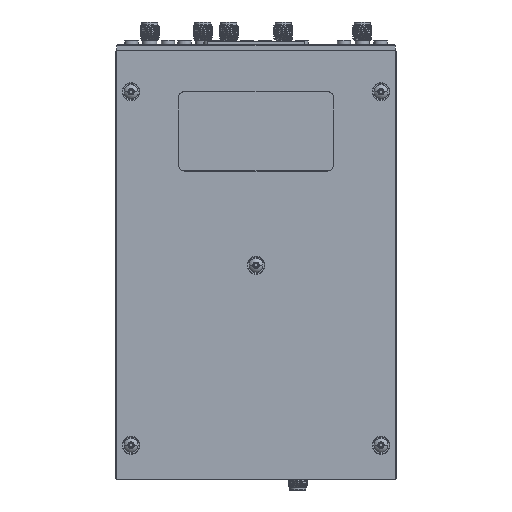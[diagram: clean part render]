
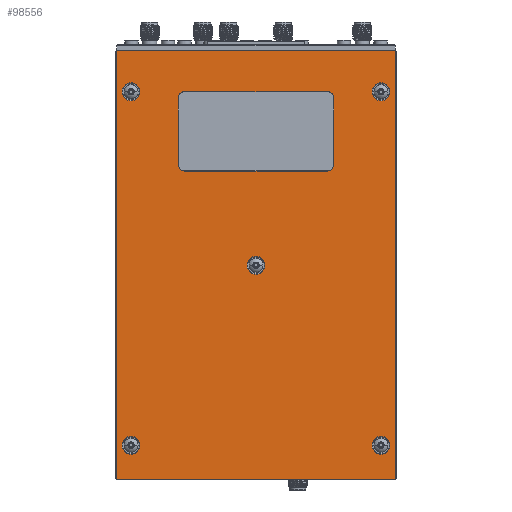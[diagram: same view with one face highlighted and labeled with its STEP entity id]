
A CAD part, front view. The second image highlights one B-rep face of the part: STEP entity #98556.
In plain terms, the highlighted planar face has unit normal (0, -1, 0).
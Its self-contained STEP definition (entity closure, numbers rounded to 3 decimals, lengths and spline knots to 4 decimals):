
#97813=CARTESIAN_POINT('',(1.6435,-0.146,2.2825));
#97814=DIRECTION('',(0.,1.,0.));
#97815=DIRECTION('',(0.,0.,1.));
#97816=AXIS2_PLACEMENT_3D('',#97813,#97814,#97815);
#97818=CARTESIAN_POINT('',(1.6435,-0.146,2.2825));
#97819=DIRECTION('',(0.,1.,0.));
#97820=DIRECTION('',(0.,0.,-1.));
#97821=AXIS2_PLACEMENT_3D('',#97818,#97819,#97820);
#97823=CARTESIAN_POINT('',(1.6435,-0.146,-2.3675));
#97824=DIRECTION('',(0.,1.,0.));
#97825=DIRECTION('',(0.,0.,1.));
#97826=AXIS2_PLACEMENT_3D('',#97823,#97824,#97825);
#97828=CARTESIAN_POINT('',(1.6435,-0.146,-2.3675));
#97829=DIRECTION('',(0.,1.,0.));
#97830=DIRECTION('',(0.,0.,-1.));
#97831=AXIS2_PLACEMENT_3D('',#97828,#97829,#97830);
#97833=CARTESIAN_POINT('',(-1.6435,-0.146,-2.3675));
#97834=DIRECTION('',(0.,1.,0.));
#97835=DIRECTION('',(0.,0.,1.));
#97836=AXIS2_PLACEMENT_3D('',#97833,#97834,#97835);
#97838=CARTESIAN_POINT('',(-1.6435,-0.146,-2.3675));
#97839=DIRECTION('',(0.,1.,0.));
#97840=DIRECTION('',(0.,0.,-1.));
#97841=AXIS2_PLACEMENT_3D('',#97838,#97839,#97840);
#97843=CARTESIAN_POINT('',(-1.6435,-0.146,2.2825));
#97844=DIRECTION('',(0.,1.,0.));
#97845=DIRECTION('',(0.,0.,1.));
#97846=AXIS2_PLACEMENT_3D('',#97843,#97844,#97845);
#97848=CARTESIAN_POINT('',(-1.6435,-0.146,2.2825));
#97849=DIRECTION('',(0.,1.,0.));
#97850=DIRECTION('',(0.,0.,-1.));
#97851=AXIS2_PLACEMENT_3D('',#97848,#97849,#97850);
#97853=CARTESIAN_POINT('',(-1.8235,-0.146,-2.8025));
#97854=DIRECTION('',(0.,1.,0.));
#97855=DIRECTION('',(0.,0.,-1.));
#97856=AXIS2_PLACEMENT_3D('',#97853,#97854,#97855);
#97858=DIRECTION('',(0.,0.,1.));
#97859=VECTOR('',#97858,5.605);
#97860=CARTESIAN_POINT('',(-1.8405,-0.146,-2.8025));
#97861=LINE('',#97860,#97859);
#97862=CARTESIAN_POINT('',(-1.8235,-0.146,2.8025));
#97863=DIRECTION('',(0.,1.,0.));
#97864=DIRECTION('',(-1.,0.,0.));
#97865=AXIS2_PLACEMENT_3D('',#97862,#97863,#97864);
#97867=DIRECTION('',(1.,0.,0.));
#97868=VECTOR('',#97867,3.647);
#97869=CARTESIAN_POINT('',(-1.8235,-0.146,2.8195));
#97870=LINE('',#97869,#97868);
#97871=CARTESIAN_POINT('',(1.8235,-0.146,2.8025));
#97872=DIRECTION('',(0.,1.,0.));
#97873=DIRECTION('',(0.,0.,1.));
#97874=AXIS2_PLACEMENT_3D('',#97871,#97872,#97873);
#97876=DIRECTION('',(0.,0.,-1.));
#97877=VECTOR('',#97876,5.605);
#97878=CARTESIAN_POINT('',(1.8405,-0.146,2.8025));
#97879=LINE('',#97878,#97877);
#97880=CARTESIAN_POINT('',(1.8235,-0.146,-2.8025));
#97881=DIRECTION('',(0.,1.,0.));
#97882=DIRECTION('',(1.,0.,0.));
#97883=AXIS2_PLACEMENT_3D('',#97880,#97881,#97882);
#97885=DIRECTION('',(-1.,0.,0.));
#97886=VECTOR('',#97885,3.647);
#97887=CARTESIAN_POINT('',(1.8235,-0.146,-2.8195));
#97888=LINE('',#97887,#97886);
#97889=CARTESIAN_POINT('',(0.94,-0.146,2.2025));
#97890=DIRECTION('',(0.,1.,0.));
#97891=DIRECTION('',(0.,0.,1.));
#97892=AXIS2_PLACEMENT_3D('',#97889,#97890,#97891);
#97894=DIRECTION('',(-1.,0.,0.));
#97895=VECTOR('',#97894,1.88);
#97896=CARTESIAN_POINT('',(0.94,-0.146,
2.2855));
#97897=LINE('',#97896,#97895);
#97898=CARTESIAN_POINT('',(-0.94,-0.146,2.2025));
#97899=DIRECTION('',(0.,1.,0.));
#97900=DIRECTION('',(-1.,0.,0.));
#97901=AXIS2_PLACEMENT_3D('',#97898,#97899,#97900);
#97903=DIRECTION('',(0.,0.,-1.));
#97904=VECTOR('',#97903,0.88);
#97905=CARTESIAN_POINT('',(-1.023,-0.146,
2.2025));
#97906=LINE('',#97905,#97904);
#97907=CARTESIAN_POINT('',(-0.94,-0.146,1.3225));
#97908=DIRECTION('',(0.,1.,0.));
#97909=DIRECTION('',(0.,0.,-1.));
#97910=AXIS2_PLACEMENT_3D('',#97907,#97908,#97909);
#97912=DIRECTION('',(-1.,0.,0.));
#97913=VECTOR('',#97912,1.88);
#97914=CARTESIAN_POINT('',(0.94,-0.146,
1.2395));
#97915=LINE('',#97914,#97913);
#97916=CARTESIAN_POINT('',(0.94,-0.146,1.3225));
#97917=DIRECTION('',(0.,1.,0.));
#97918=DIRECTION('',(1.,0.,0.));
#97919=AXIS2_PLACEMENT_3D('',#97916,#97917,#97918);
#97921=DIRECTION('',(0.,0.,1.));
#97922=VECTOR('',#97921,0.88);
#97923=CARTESIAN_POINT('',(1.023,-0.146,
1.3225));
#97924=LINE('',#97923,#97922);
#97925=CARTESIAN_POINT('',(0.,-0.146,0.));
#97926=DIRECTION('',(0.,1.,0.));
#97927=DIRECTION('',(0.,0.,1.));
#97928=AXIS2_PLACEMENT_3D('',#97925,#97926,#97927);
#97930=CARTESIAN_POINT('',(0.,-0.146,0.));
#97931=DIRECTION('',(0.,1.,0.));
#97932=DIRECTION('',(0.,0.,-1.));
#97933=AXIS2_PLACEMENT_3D('',#97930,#97931,#97932);
#98309=CARTESIAN_POINT('',(1.6435,-0.146,2.4));
#98310=CARTESIAN_POINT('',(1.6435,-0.146,2.165));
#98311=VERTEX_POINT('',#98309);
#98312=VERTEX_POINT('',#98310);
#98317=CARTESIAN_POINT('',(1.6435,-0.146,-2.25));
#98318=CARTESIAN_POINT('',(1.6435,-0.146,-2.485));
#98319=VERTEX_POINT('',#98317);
#98320=VERTEX_POINT('',#98318);
#98325=CARTESIAN_POINT('',(-1.6435,-0.146,-2.25));
#98326=CARTESIAN_POINT('',(-1.6435,-0.146,-2.485));
#98327=VERTEX_POINT('',#98325);
#98328=VERTEX_POINT('',#98326);
#98333=CARTESIAN_POINT('',(-1.6435,-0.146,2.4));
#98334=CARTESIAN_POINT('',(-1.6435,-0.146,2.165));
#98335=VERTEX_POINT('',#98333);
#98336=VERTEX_POINT('',#98334);
#98341=CARTESIAN_POINT('',(-1.8405,-0.146,-2.8025));
#98342=CARTESIAN_POINT('',(-1.8235,-0.146,-2.8195));
#98343=VERTEX_POINT('',#98341);
#98344=VERTEX_POINT('',#98342);
#98349=CARTESIAN_POINT('',(1.8235,-0.146,-2.8195));
#98350=VERTEX_POINT('',#98349);
#98353=CARTESIAN_POINT('',(1.8405,-0.146,-2.8025));
#98354=VERTEX_POINT('',#98353);
#98357=CARTESIAN_POINT('',(1.8405,-0.146,2.8025));
#98358=VERTEX_POINT('',#98357);
#98361=CARTESIAN_POINT('',(1.8235,-0.146,2.8195));
#98362=VERTEX_POINT('',#98361);
#98365=CARTESIAN_POINT('',(-1.8235,-0.146,2.8195));
#98366=VERTEX_POINT('',#98365);
#98367=CARTESIAN_POINT('',(-1.8405,-0.146,2.8025));
#98368=VERTEX_POINT('',#98367);
#98413=CARTESIAN_POINT('',(0.94,-0.146,2.2855));
#98414=CARTESIAN_POINT('',(1.023,-0.146,2.2025));
#98415=VERTEX_POINT('',#98413);
#98416=VERTEX_POINT('',#98414);
#98421=CARTESIAN_POINT('',(1.023,-0.146,
1.3225));
#98422=VERTEX_POINT('',#98421);
#98423=CARTESIAN_POINT('',(0.94,-0.146,1.2395));
#98424=VERTEX_POINT('',#98423);
#98429=CARTESIAN_POINT('',(-0.94,-0.146,
1.2395));
#98430=VERTEX_POINT('',#98429);
#98433=CARTESIAN_POINT('',(-1.023,-0.146,1.3225));
#98434=VERTEX_POINT('',#98433);
#98437=CARTESIAN_POINT('',(-1.023,-0.146,
2.2025));
#98438=VERTEX_POINT('',#98437);
#98439=CARTESIAN_POINT('',(-0.94,-0.146,2.2855));
#98440=VERTEX_POINT('',#98439);
#98445=CARTESIAN_POINT('',(0.,-0.146,0.1175));
#98446=CARTESIAN_POINT('',(0.,-0.146,-0.1175));
#98447=VERTEX_POINT('',#98445);
#98448=VERTEX_POINT('',#98446);
#98485=CARTESIAN_POINT('',(0.,-0.146,0.));
#98486=DIRECTION('',(0.,1.,0.));
#98487=DIRECTION('',(1.,0.,0.));
#98488=AXIS2_PLACEMENT_3D('',#98485,#98486,#98487);
#98489=PLANE('',#98488);
#98491=ORIENTED_EDGE('',*,*,#98490,.T.);
#98493=ORIENTED_EDGE('',*,*,#98492,.T.);
#98495=ORIENTED_EDGE('',*,*,#98494,.T.);
#98497=ORIENTED_EDGE('',*,*,#98496,.T.);
#98499=ORIENTED_EDGE('',*,*,#98498,.T.);
#98501=ORIENTED_EDGE('',*,*,#98500,.T.);
#98503=ORIENTED_EDGE('',*,*,#98502,.T.);
#98505=ORIENTED_EDGE('',*,*,#98504,.T.);
#98506=EDGE_LOOP('',(#98491,#98493,#98495,#98497,#98499,#98501,#98503,#98505));
#98507=FACE_OUTER_BOUND('',#98506,.F.);
#98509=ORIENTED_EDGE('',*,*,#98508,.F.);
#98511=ORIENTED_EDGE('',*,*,#98510,.F.);
#98512=EDGE_LOOP('',(#98509,#98511));
#98513=FACE_BOUND('',#98512,.F.);
#98515=ORIENTED_EDGE('',*,*,#98514,.F.);
#98517=ORIENTED_EDGE('',*,*,#98516,.F.);
#98518=EDGE_LOOP('',(#98515,#98517));
#98519=FACE_BOUND('',#98518,.F.);
#98521=ORIENTED_EDGE('',*,*,#98520,.F.);
#98523=ORIENTED_EDGE('',*,*,#98522,.F.);
#98524=EDGE_LOOP('',(#98521,#98523));
#98525=FACE_BOUND('',#98524,.F.);
#98527=ORIENTED_EDGE('',*,*,#98526,.F.);
#98529=ORIENTED_EDGE('',*,*,#98528,.F.);
#98530=EDGE_LOOP('',(#98527,#98529));
#98531=FACE_BOUND('',#98530,.F.);
#98533=ORIENTED_EDGE('',*,*,#98532,.F.);
#98535=ORIENTED_EDGE('',*,*,#98534,.T.);
#98537=ORIENTED_EDGE('',*,*,#98536,.F.);
#98539=ORIENTED_EDGE('',*,*,#98538,.T.);
#98541=ORIENTED_EDGE('',*,*,#98540,.F.);
#98543=ORIENTED_EDGE('',*,*,#98542,.F.);
#98545=ORIENTED_EDGE('',*,*,#98544,.F.);
#98547=ORIENTED_EDGE('',*,*,#98546,.T.);
#98548=EDGE_LOOP('',(#98533,#98535,#98537,#98539,#98541,#98543,#98545,#98547));
#98549=FACE_BOUND('',#98548,.F.);
#98551=ORIENTED_EDGE('',*,*,#98550,.F.);
#98553=ORIENTED_EDGE('',*,*,#98552,.F.);
#98554=EDGE_LOOP('',(#98551,#98553));
#98555=FACE_BOUND('',#98554,.F.);
#98556=ADVANCED_FACE('',(#98507,#98513,#98519,#98525,#98531,#98549,#98555),
#98489,.F.);
#97817=CIRCLE('',#97816,0.1175);
#97822=CIRCLE('',#97821,0.1175);
#97827=CIRCLE('',#97826,0.1175);
#97832=CIRCLE('',#97831,0.1175);
#97837=CIRCLE('',#97836,0.1175);
#97842=CIRCLE('',#97841,0.1175);
#97847=CIRCLE('',#97846,0.1175);
#97852=CIRCLE('',#97851,0.1175);
#97857=CIRCLE('',#97856,0.017);
#97866=CIRCLE('',#97865,0.017);
#97875=CIRCLE('',#97874,0.017);
#97884=CIRCLE('',#97883,0.017);
#97893=CIRCLE('',#97892,0.083);
#97902=CIRCLE('',#97901,0.083);
#97911=CIRCLE('',#97910,0.083);
#97920=CIRCLE('',#97919,0.083);
#97929=CIRCLE('',#97928,0.1175);
#97934=CIRCLE('',#97933,0.1175);
#98490=EDGE_CURVE('',#98344,#98343,#97857,.T.);
#98492=EDGE_CURVE('',#98343,#98368,#97861,.T.);
#98494=EDGE_CURVE('',#98368,#98366,#97866,.T.);
#98496=EDGE_CURVE('',#98366,#98362,#97870,.T.);
#98498=EDGE_CURVE('',#98362,#98358,#97875,.T.);
#98500=EDGE_CURVE('',#98358,#98354,#97879,.T.);
#98502=EDGE_CURVE('',#98354,#98350,#97884,.T.);
#98504=EDGE_CURVE('',#98350,#98344,#97888,.T.);
#98508=EDGE_CURVE('',#98319,#98320,#97827,.T.);
#98510=EDGE_CURVE('',#98320,#98319,#97832,.T.);
#98514=EDGE_CURVE('',#98327,#98328,#97837,.T.);
#98516=EDGE_CURVE('',#98328,#98327,#97842,.T.);
#98520=EDGE_CURVE('',#98335,#98336,#97847,.T.);
#98522=EDGE_CURVE('',#98336,#98335,#97852,.T.);
#98526=EDGE_CURVE('',#98311,#98312,#97817,.T.);
#98528=EDGE_CURVE('',#98312,#98311,#97822,.T.);
#98532=EDGE_CURVE('',#98415,#98416,#97893,.T.);
#98534=EDGE_CURVE('',#98415,#98440,#97897,.T.);
#98536=EDGE_CURVE('',#98438,#98440,#97902,.T.);
#98538=EDGE_CURVE('',#98438,#98434,#97906,.T.);
#98540=EDGE_CURVE('',#98430,#98434,#97911,.T.);
#98542=EDGE_CURVE('',#98424,#98430,#97915,.T.);
#98544=EDGE_CURVE('',#98422,#98424,#97920,.T.);
#98546=EDGE_CURVE('',#98422,#98416,#97924,.T.);
#98550=EDGE_CURVE('',#98447,#98448,#97929,.T.);
#98552=EDGE_CURVE('',#98448,#98447,#97934,.T.);
